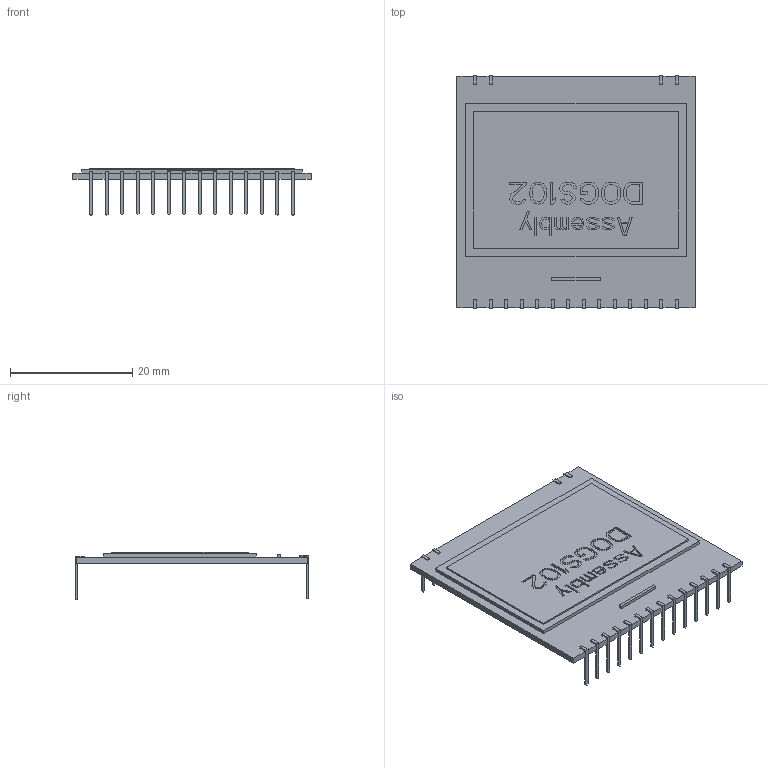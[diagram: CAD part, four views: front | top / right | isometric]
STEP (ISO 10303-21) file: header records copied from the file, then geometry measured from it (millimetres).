
FILE_DESCRIPTION((''),'2;1');
FILE_NAME('EADOGS102-6','2010-04-13T',('Martin'),(''),'PRO/ENGINEER BY PARAMETRIC TECHNOLOGY CORPORATION, 2008380','PRO/ENGINEER BY PARAMETRIC TECHNOLOGY CORPORATION, 2008380','');
FILE_SCHEMA(('AUTOMOTIVE_DESIGN { 1 0 10303 214 1 1 1 1 }'));
Length unit declared in the file: millimetre
Products named in the file (1): EADOGS102-6
Bounding box: 39 x 38.09 x 7.85 mm (x, y, z)
Volume: 2213.3 mm3; surface area: 3471 mm2
Topology: 1 solids, 1 shells, 726 faces, 2100 edges, 1400 vertices
Faces by surface type: plane 726
Entity records: 23631 total; most frequent: CARTESIAN_POINT 4227, ORIENTED_EDGE 4200, DIRECTION 3552, VECTOR 2100, LINE 2100, EDGE_CURVE 2100, VERTEX_POINT 1400, EDGE_LOOP 750
